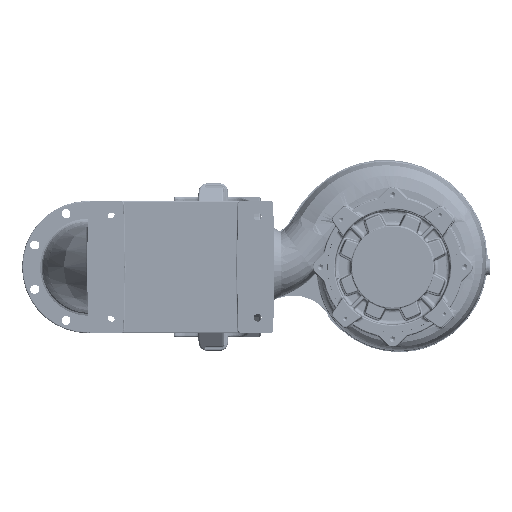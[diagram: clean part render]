
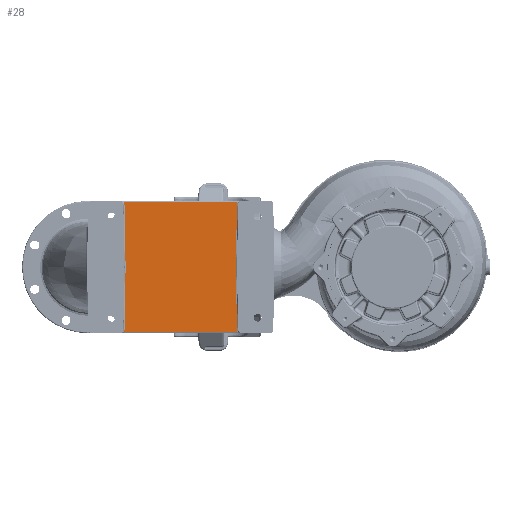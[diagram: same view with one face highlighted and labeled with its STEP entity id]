
A CAD part, front view. The second image highlights one B-rep face of the part: STEP entity #28.
In plain terms, the highlighted planar face has unit normal (0, -1, 0).
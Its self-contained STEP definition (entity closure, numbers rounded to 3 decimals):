
#28 = ADVANCED_FACE ( 'NONE', ( #216889 ), #238480, .T. ) ;
#7239 = DIRECTION ( 'NONE',  ( 0.017, 0., -1. ) ) ;
#8441 = ORIENTED_EDGE ( 'NONE', *, *, #238195, .T. ) ;
#14735 = VERTEX_POINT ( 'NONE', #53828 ) ;
#15612 = EDGE_LOOP ( 'NONE', ( #250348, #200984, #136205, #207145, #210607, #148353, #63195, #8441, #211277, #81533 ) ) ;
#20375 = AXIS2_PLACEMENT_3D ( 'NONE', #231325, #145923, #247012 ) ;
#20662 = DIRECTION ( 'NONE',  ( 0., -1., 0. ) ) ;
#22794 = CARTESIAN_POINT ( 'NONE',  ( -274.5, -510.761, 166.927 ) ) ;
#24725 = DIRECTION ( 'NONE',  ( -0.017, 0., 1. ) ) ;
#28255 = EDGE_CURVE ( 'NONE', #161379, #178697, #174924, .T. ) ;
#29002 = AXIS2_PLACEMENT_3D ( 'NONE', #30029, #188188, #169714 ) ;
#30029 = CARTESIAN_POINT ( 'NONE',  ( 120.327, -510.761, 159.927 ) ) ;
#30300 = VECTOR ( 'NONE', #7239, 1000. ) ;
#37814 = CARTESIAN_POINT ( 'NONE',  ( -181.329, -510.761, -160.3 ) ) ;
#42118 = CIRCLE ( 'NONE', #29002, 13. ) ;
#53828 = CARTESIAN_POINT ( 'NONE',  ( 109.373, -510.761, 166.927 ) ) ;
#60515 = VERTEX_POINT ( 'NONE', #253810 ) ;
#62839 = VECTOR ( 'NONE', #24725, 1000. ) ;
#63195 = ORIENTED_EDGE ( 'NONE', *, *, #142087, .T. ) ;
#66625 = CARTESIAN_POINT ( 'NONE',  ( -183.373, -510.761, -167.073 ) ) ;
#81533 = ORIENTED_EDGE ( 'NONE', *, *, #124108, .T. ) ;
#86760 = CARTESIAN_POINT ( 'NONE',  ( 107.329, -510.761, 160.154 ) ) ;
#87192 = DIRECTION ( 'NONE',  ( 0., 0., -1. ) ) ;
#87295 = VERTEX_POINT ( 'NONE', #139747 ) ;
#88520 = DIRECTION ( 'NONE',  ( 0.017, 0., 1. ) ) ;
#90303 = CARTESIAN_POINT ( 'NONE',  ( 104.532, -510.761, -0.073 ) ) ;
#113679 = LINE ( 'NONE', #37814, #167185 ) ;
#114024 = VERTEX_POINT ( 'NONE', #158355 ) ;
#114127 = CARTESIAN_POINT ( 'NONE',  ( 107.329, -510.761, 160.154 ) ) ;
#118121 = CARTESIAN_POINT ( 'NONE',  ( -274.5, -510.761, -0.073 ) ) ;
#123539 = DIRECTION ( 'NONE',  ( 0., 1., 0. ) ) ;
#124108 = EDGE_CURVE ( 'NONE', #178697, #87295, #165717, .T. ) ;
#124880 = CARTESIAN_POINT ( 'NONE',  ( 104.533, -510.761, -0.125 ) ) ;
#136205 = ORIENTED_EDGE ( 'NONE', *, *, #239456, .T. ) ;
#139747 = CARTESIAN_POINT ( 'NONE',  ( 109.373, -510.761, -167.073 ) ) ;
#141126 = CARTESIAN_POINT ( 'NONE',  ( -181.329, -510.761, -160.3 ) ) ;
#142087 = EDGE_CURVE ( 'NONE', #114024, #210791, #244079, .T. ) ;
#144738 = VECTOR ( 'NONE', #88520, 1000. ) ;
#145923 = DIRECTION ( 'NONE',  ( 0., 1., 0. ) ) ;
#148353 = ORIENTED_EDGE ( 'NONE', *, *, #235735, .T. ) ;
#156133 = CIRCLE ( 'NONE', #244113, 13. ) ;
#156877 = VERTEX_POINT ( 'NONE', #114127 ) ;
#158355 = CARTESIAN_POINT ( 'NONE',  ( -181.329, -510.761, 160.154 ) ) ;
#160754 = EDGE_CURVE ( 'NONE', #156877, #14735, #42118, .T. ) ;
#161121 = DIRECTION ( 'NONE',  ( 0., 0., -1. ) ) ;
#161379 = VERTEX_POINT ( 'NONE', #141126 ) ;
#162412 = EDGE_CURVE ( 'NONE', #14735, #60515, #239553, .T. ) ;
#163290 = DIRECTION ( 'NONE',  ( -1., 0., 0. ) ) ;
#164771 = CARTESIAN_POINT ( 'NONE',  ( -194.327, -510.761, 159.927 ) ) ;
#164890 = CARTESIAN_POINT ( 'NONE',  ( 107.329, -510.761, -160.3 ) ) ;
#165717 = LINE ( 'NONE', #236606, #225459 ) ;
#167185 = VECTOR ( 'NONE', #217014, 1000. ) ;
#167258 = CARTESIAN_POINT ( 'NONE',  ( -194.327, -510.761, -160.073 ) ) ;
#169714 = DIRECTION ( 'NONE',  ( 0., 0., -1. ) ) ;
#174924 = CIRCLE ( 'NONE', #204588, 13. ) ;
#175087 = CIRCLE ( 'NONE', #20375, 13. ) ;
#176726 = VECTOR ( 'NONE', #163290, 1000. ) ;
#178697 = VERTEX_POINT ( 'NONE', #66625 ) ;
#182390 = LINE ( 'NONE', #124880, #62839 ) ;
#188188 = DIRECTION ( 'NONE',  ( 0., 1., 0. ) ) ;
#196164 = EDGE_CURVE ( 'NONE', #87295, #216947, #175087, .T. ) ;
#197191 = CARTESIAN_POINT ( 'NONE',  ( -178.532, -510.761, -0.073 ) ) ;
#200984 = ORIENTED_EDGE ( 'NONE', *, *, #215554, .T. ) ;
#204588 = AXIS2_PLACEMENT_3D ( 'NONE', #167258, #207660, #87192 ) ;
#207145 = ORIENTED_EDGE ( 'NONE', *, *, #160754, .T. ) ;
#207660 = DIRECTION ( 'NONE',  ( 0., 1., 0. ) ) ;
#210607 = ORIENTED_EDGE ( 'NONE', *, *, #162412, .T. ) ;
#210791 = VERTEX_POINT ( 'NONE', #197191 ) ;
#211277 = ORIENTED_EDGE ( 'NONE', *, *, #28255, .T. ) ;
#215512 = DIRECTION ( 'NONE',  ( 1., 0., 0. ) ) ;
#215554 = EDGE_CURVE ( 'NONE', #216947, #256586, #182390, .T. ) ;
#216889 = FACE_OUTER_BOUND ( 'NONE', #15612, .T. ) ;
#216947 = VERTEX_POINT ( 'NONE', #164890 ) ;
#217014 = DIRECTION ( 'NONE',  ( -0.017, 0., -1. ) ) ;
#222852 = DIRECTION ( 'NONE',  ( 0., 0., -1. ) ) ;
#225459 = VECTOR ( 'NONE', #215512, 1000. ) ;
#226465 = LINE ( 'NONE', #86760, #144738 ) ;
#231325 = CARTESIAN_POINT ( 'NONE',  ( 120.327, -510.761, -160.073 ) ) ;
#235735 = EDGE_CURVE ( 'NONE', #60515, #114024, #156133, .T. ) ;
#236606 = CARTESIAN_POINT ( 'NONE',  ( 120.327, -510.761, -167.073 ) ) ;
#238195 = EDGE_CURVE ( 'NONE', #210791, #161379, #113679, .T. ) ;
#238480 = PLANE ( 'NONE',  #244800 ) ;
#239456 = EDGE_CURVE ( 'NONE', #256586, #156877, #226465, .T. ) ;
#239553 = LINE ( 'NONE', #22794, #176726 ) ;
#244079 = LINE ( 'NONE', #244390, #30300 ) ;
#244113 = AXIS2_PLACEMENT_3D ( 'NONE', #164771, #123539, #222852 ) ;
#244390 = CARTESIAN_POINT ( 'NONE',  ( -178.533, -510.761, -0.021 ) ) ;
#244800 = AXIS2_PLACEMENT_3D ( 'NONE', #118121, #20662, #161121 ) ;
#247012 = DIRECTION ( 'NONE',  ( 0., 0., -1. ) ) ;
#250348 = ORIENTED_EDGE ( 'NONE', *, *, #196164, .T. ) ;
#253810 = CARTESIAN_POINT ( 'NONE',  ( -183.373, -510.761, 166.927 ) ) ;
#256586 = VERTEX_POINT ( 'NONE', #90303 ) ;
